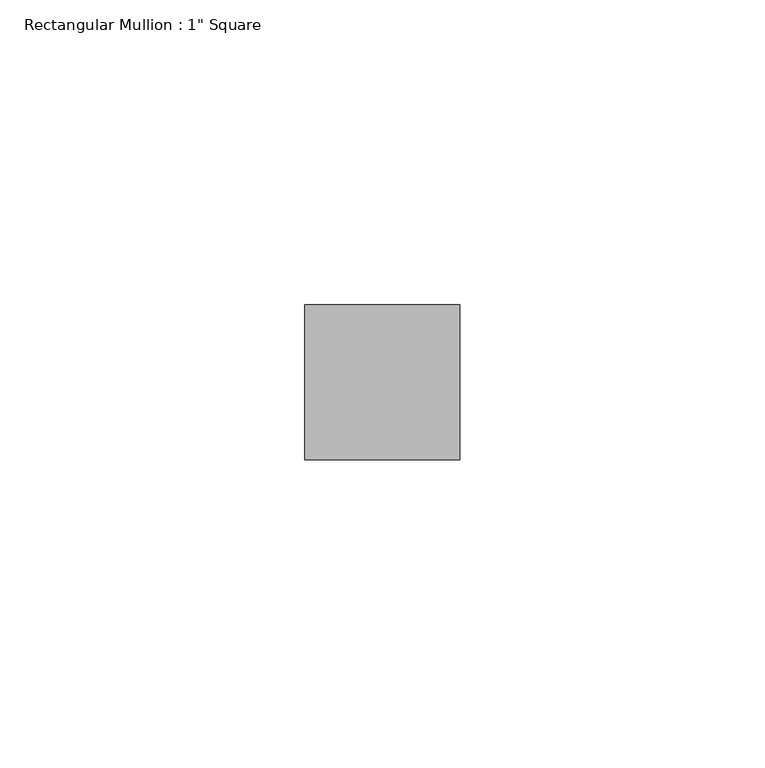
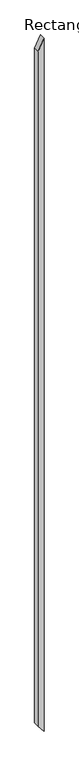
"""IFC4 building model written with IfcOpenShell, lengths in millimetres: member geometry."""

from ifc_helpers import new_model, si_unit, frame, origin, place, context, project, spatial, polyline, outline, extrude, source, transform, mapped, element, save


def member_86c85992(model_context):
    return source(origin(), model_context, "Body", "SweptSolid", [
        extrude(outline(polyline([(0.0, 0.0), (-52.8478711, -25.4), (-3149.8823945, -25.4), (-3181.6323945, 0.0), (0.0, 0.0)])), frame((0.0, -12.7, 0.0), z_axis=(0.0, 1.0, 0.0), x_axis=(0.0, 0.0, 1.0)), (0.0, 0.0, 1.0), 25.4),
    ])


if __name__ == "__main__":
    model = new_model("IFC4")
    model_context = context("Model", 3, world=origin())
    ifc_project = project(units=[si_unit("LENGTHUNIT", "METRE", prefix="MILLI")], contexts=[model_context])
    site = spatial("IfcSite", under=ifc_project)
    building = spatial("IfcBuilding", under=site)
    placement = place(None, origin())
    member_shape = member_86c85992(model_context)
    element("IfcMember", 1, ObjectType="Rectangular Mullion : 1\" Square", at=placement, inside=building, context=model_context, shape_type="MappedRepresentation", body=[
        mapped(member_shape, transform((0.0, 0.0, 0.0), x_axis=(1.0, 0.0, 0.0), y_axis=(0.0, 1.0, 0.0), z_axis=(0.0, 0.0, 1.0))),
    ])
    save(model, "model.ifc")
